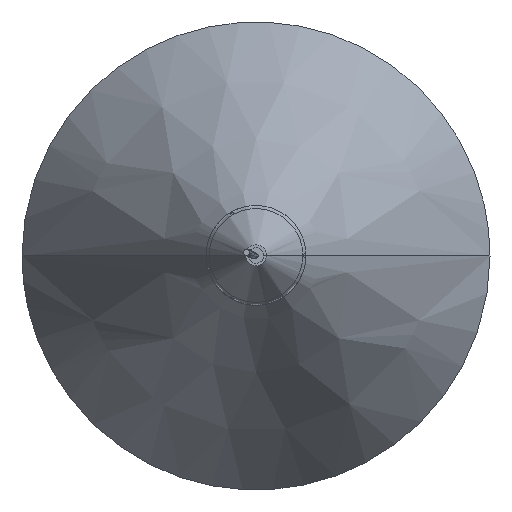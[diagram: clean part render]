
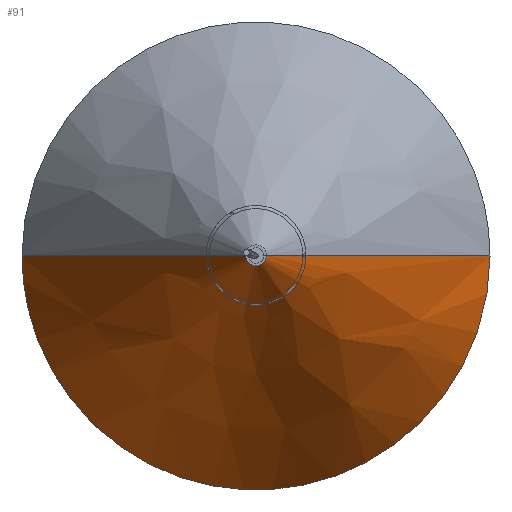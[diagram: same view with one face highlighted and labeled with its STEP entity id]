
A CAD part, top view. The second image highlights one B-rep face of the part: STEP entity #91.
In plain terms, the highlighted free-form (B-spline) face has degree [2, 1] with [5, 2] control points.
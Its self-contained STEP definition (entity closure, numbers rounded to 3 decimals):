
#31=B_SPLINE_CURVE_WITH_KNOTS('',1,(#1379,#1380),.UNSPECIFIED.,.F.,.F.,
(2,2),(20.,450.),.UNSPECIFIED.);
#32=B_SPLINE_CURVE_WITH_KNOTS('',1,(#1381,#1382),.UNSPECIFIED.,.F.,.F.,
(2,2),(20.,450.),.UNSPECIFIED.);
#91=ADVANCED_FACE('',(#146),#693,.T.);
#146=FACE_OUTER_BOUND('',#201,.T.);
#201=EDGE_LOOP('',(#315,#316,#317,#318));
#315=ORIENTED_EDGE('',*,*,#468,.F.);
#316=ORIENTED_EDGE('',*,*,#469,.T.);
#317=ORIENTED_EDGE('',*,*,#467,.T.);
#318=ORIENTED_EDGE('',*,*,#470,.F.);
#467=EDGE_CURVE('',#638,#641,#567,.T.);
#468=EDGE_CURVE('',#639,#640,#568,.T.);
#469=EDGE_CURVE('',#639,#638,#31,.T.);
#470=EDGE_CURVE('',#640,#641,#32,.T.);
#567=(
BOUNDED_CURVE()
B_SPLINE_CURVE(2,(#1369,#1370,#1371,#1372,#1373),.UNSPECIFIED.,.F.,.F.)
B_SPLINE_CURVE_WITH_KNOTS((3,2,3),(-1413.717,-1060.288,
-706.858),.UNSPECIFIED.)
CURVE()
GEOMETRIC_REPRESENTATION_ITEM()
RATIONAL_B_SPLINE_CURVE((1.,0.707,1.,0.707,1.))
REPRESENTATION_ITEM('')
);
#568=(
BOUNDED_CURVE()
B_SPLINE_CURVE(2,(#1374,#1375,#1376,#1377,#1378),.UNSPECIFIED.,.F.,.F.)
B_SPLINE_CURVE_WITH_KNOTS((3,2,3),(-1413.717,-1060.288,
-706.858),.UNSPECIFIED.)
CURVE()
GEOMETRIC_REPRESENTATION_ITEM()
RATIONAL_B_SPLINE_CURVE((1.,0.707,1.,0.707,1.))
REPRESENTATION_ITEM('')
);
#638=VERTEX_POINT('',#1365);
#639=VERTEX_POINT('',#1366);
#640=VERTEX_POINT('',#1367);
#641=VERTEX_POINT('',#1368);
#693=(
BOUNDED_SURFACE()
B_SPLINE_SURFACE(2,1,((#1355,#1356),(#1357,#1358),(#1359,#1360),(#1361,
#1362),(#1363,#1364)),.UNSPECIFIED.,.F.,.F.,.F.)
B_SPLINE_SURFACE_WITH_KNOTS((3,2,3),(2,2),(706.858,1060.288,
1413.717),(0.,450.),.UNSPECIFIED.)
GEOMETRIC_REPRESENTATION_ITEM()
RATIONAL_B_SPLINE_SURFACE(((1.,1.),(0.707,0.707),
(1.,1.),(0.707,0.707),(1.,1.)))
REPRESENTATION_ITEM('')
SURFACE()
);
#1355=CARTESIAN_POINT('',(1084.506,0.,2261.668));
#1356=CARTESIAN_POINT('',(859.506,0.,1871.956));
#1357=CARTESIAN_POINT('',(1084.506,0.,2261.668));
#1358=CARTESIAN_POINT('',(859.506,-225.,1871.956));
#1359=CARTESIAN_POINT('',(1084.506,0.,2261.668));
#1360=CARTESIAN_POINT('',(1084.506,-225.,1871.956));
#1361=CARTESIAN_POINT('',(1084.506,0.,2261.668));
#1362=CARTESIAN_POINT('',(1309.506,-225.,1871.956));
#1363=CARTESIAN_POINT('',(1084.506,0.,2261.668));
#1364=CARTESIAN_POINT('',(1309.506,0.,1871.956));
#1365=CARTESIAN_POINT('',(1309.506,0.,1871.956));
#1366=CARTESIAN_POINT('',(1094.506,0.,2244.347));
#1367=CARTESIAN_POINT('',(1074.506,0.,2244.347));
#1368=CARTESIAN_POINT('',(859.506,0.,1871.956));
#1369=CARTESIAN_POINT('',(1309.506,0.,1871.956));
#1370=CARTESIAN_POINT('',(1309.506,-225.,1871.956));
#1371=CARTESIAN_POINT('',(1084.506,-225.,1871.956));
#1372=CARTESIAN_POINT('',(859.506,-225.,1871.956));
#1373=CARTESIAN_POINT('',(859.506,0.,1871.956));
#1374=CARTESIAN_POINT('',(1094.506,0.,2244.347));
#1375=CARTESIAN_POINT('',(1094.506,-10.,2244.347));
#1376=CARTESIAN_POINT('',(1084.506,-10.,2244.347));
#1377=CARTESIAN_POINT('',(1074.506,-10.,2244.347));
#1378=CARTESIAN_POINT('',(1074.506,0.,2244.347));
#1379=CARTESIAN_POINT('',(1094.506,0.,2244.347));
#1380=CARTESIAN_POINT('',(1309.506,0.,1871.956));
#1381=CARTESIAN_POINT('',(1074.506,0.,2244.347));
#1382=CARTESIAN_POINT('',(859.506,0.,1871.956));
